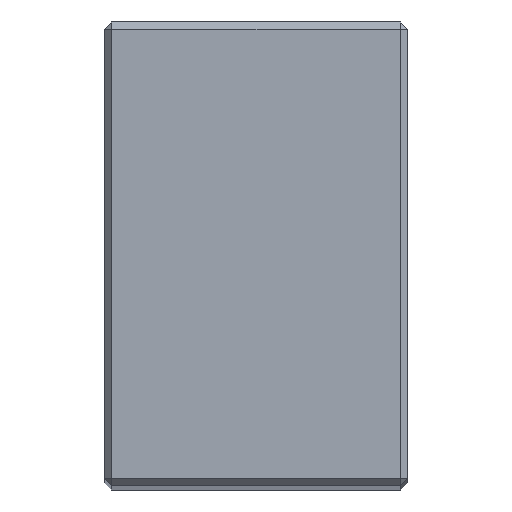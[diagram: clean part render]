
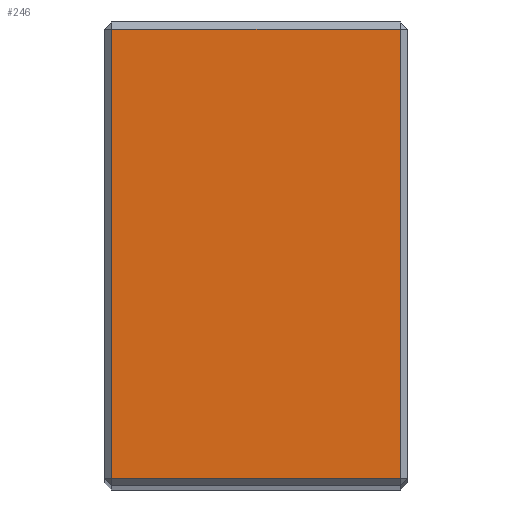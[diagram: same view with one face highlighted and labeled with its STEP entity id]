
A CAD part, top view. The second image highlights one B-rep face of the part: STEP entity #246.
In plain terms, the highlighted planar face has unit normal (0, 0, 1).
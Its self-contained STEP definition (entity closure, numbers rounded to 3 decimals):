
#14 = LINE ( 'NONE', #25, #138 ) ;
#21 = DIRECTION ( 'NONE',  ( 1., 0., 0. ) ) ;
#25 = CARTESIAN_POINT ( 'NONE',  ( 21.5, 1., 173. ) ) ;
#27 = DIRECTION ( 'NONE',  ( 0., 1., 0. ) ) ;
#58 = VECTOR ( 'NONE', #574, 1000. ) ;
#82 = AXIS2_PLACEMENT_3D ( 'NONE', #623, #223, #611 ) ;
#122 = CARTESIAN_POINT ( 'NONE',  ( 20.5, 66., 173. ) ) ;
#123 = ORIENTED_EDGE ( 'NONE', *, *, #303, .T. ) ;
#125 = CARTESIAN_POINT ( 'NONE',  ( -20.5, 1., 173. ) ) ;
#138 = VECTOR ( 'NONE', #21, 1000. ) ;
#189 = ORIENTED_EDGE ( 'NONE', *, *, #193, .T. ) ;
#191 = ORIENTED_EDGE ( 'NONE', *, *, #597, .T. ) ;
#193 = EDGE_CURVE ( 'NONE', #516, #581, #521, .T. ) ;
#204 = ORIENTED_EDGE ( 'NONE', *, *, #512, .T. ) ;
#216 = CARTESIAN_POINT ( 'NONE',  ( 20.5, 65., 173. ) ) ;
#223 = DIRECTION ( 'NONE',  ( 0., 0., -1. ) ) ;
#246 = ADVANCED_FACE ( 'NONE', ( #518 ), #553, .F. ) ;
#251 = VERTEX_POINT ( 'NONE', #216 ) ;
#253 = LINE ( 'NONE', #122, #322 ) ;
#303 = EDGE_CURVE ( 'NONE', #251, #516, #384, .T. ) ;
#322 = VECTOR ( 'NONE', #27, 1000. ) ;
#364 = CARTESIAN_POINT ( 'NONE',  ( -20.5, 65., 173. ) ) ;
#377 = CARTESIAN_POINT ( 'NONE',  ( 20.5, 1., 173. ) ) ;
#384 = LINE ( 'NONE', #548, #593 ) ;
#427 = VERTEX_POINT ( 'NONE', #377 ) ;
#512 = EDGE_CURVE ( 'NONE', #581, #427, #14, .T. ) ;
#516 = VERTEX_POINT ( 'NONE', #364 ) ;
#518 = FACE_OUTER_BOUND ( 'NONE', #627, .T. ) ;
#521 = LINE ( 'NONE', #571, #58 ) ;
#545 = DIRECTION ( 'NONE',  ( -1., 0., 0. ) ) ;
#548 = CARTESIAN_POINT ( 'NONE',  ( -21.5, 65., 173. ) ) ;
#553 = PLANE ( 'NONE',  #82 ) ;
#571 = CARTESIAN_POINT ( 'NONE',  ( -20.5, 66., 173. ) ) ;
#574 = DIRECTION ( 'NONE',  ( 0., -1., 0. ) ) ;
#581 = VERTEX_POINT ( 'NONE', #125 ) ;
#593 = VECTOR ( 'NONE', #545, 1000. ) ;
#597 = EDGE_CURVE ( 'NONE', #427, #251, #253, .T. ) ;
#611 = DIRECTION ( 'NONE',  ( -1., 0., 0. ) ) ;
#623 = CARTESIAN_POINT ( 'NONE',  ( 21.5, 66., 173. ) ) ;
#627 = EDGE_LOOP ( 'NONE', ( #123, #189, #204, #191 ) ) ;
